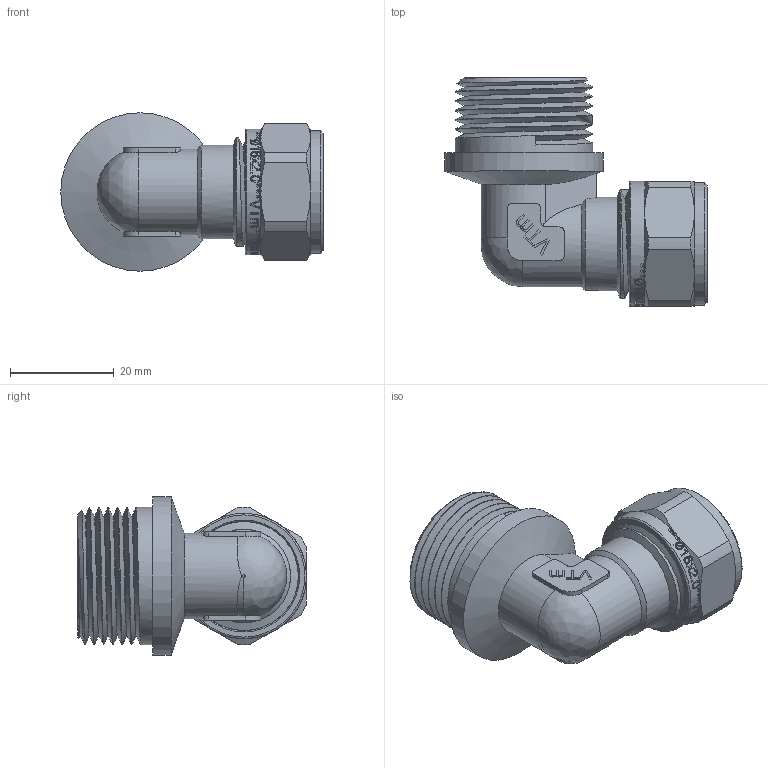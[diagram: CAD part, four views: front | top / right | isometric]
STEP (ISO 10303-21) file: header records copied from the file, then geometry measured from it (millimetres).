
FILE_DESCRIPTION(/* description */ (''),/* implementation_level */ '2;1');
FILE_NAME(/* name */ 'F:\Артём\00000\Работа удаленка\Обжимные фитинги\VTm.353.N.001605.stp',/* time_stamp */ '2020-08-10T13:09:29+03:00',/* author */ ('almis'),/* organization */ (''),/* preprocessor_version */ 'ST-DEVELOPER v18',/* originating_system */ 'Autodesk Inventor 2020',/* authorisation */ '');
FILE_SCHEMA (('AUTOMOTIVE_DESIGN { 1 0 10303 214 3 1 1 }'));
Length unit declared in the file: millimetre
Products named in the file (1): VTm.301.N.001604
Bounding box: 50.52 x 44.06 x 30.5 mm (x, y, z)
Volume: 15090.3 mm3; surface area: 11923.9 mm2
Topology: 1 solids, 2 shells, 807 faces, 2283 edges, 1519 vertices
Faces by surface type: bspline 366, plane 265, cylinder 123, cone 27, torus 25, sphere 1
Full cylindrical faces by diameter (mm): 8 x1, 9.4 x2, 11.75 x4, 12.5 x1, 16.124 x4, 16.2 x1, 16.724 x5, 17.124 x1, 17.4 x1, 18 x1, 18.724 x1, 20 x1, 21 x2, 23 x6, 23.624 x1, 24.124 x1, 26.4 x7, 30.5 x1
Entity records: 33906 total; most frequent: CARTESIAN_POINT 15368, ORIENTED_EDGE 4564, DIRECTION 2703, EDGE_CURVE 2282, VERTEX_POINT 1519, LINE 1011, VECTOR 1011, EDGE_LOOP 851
